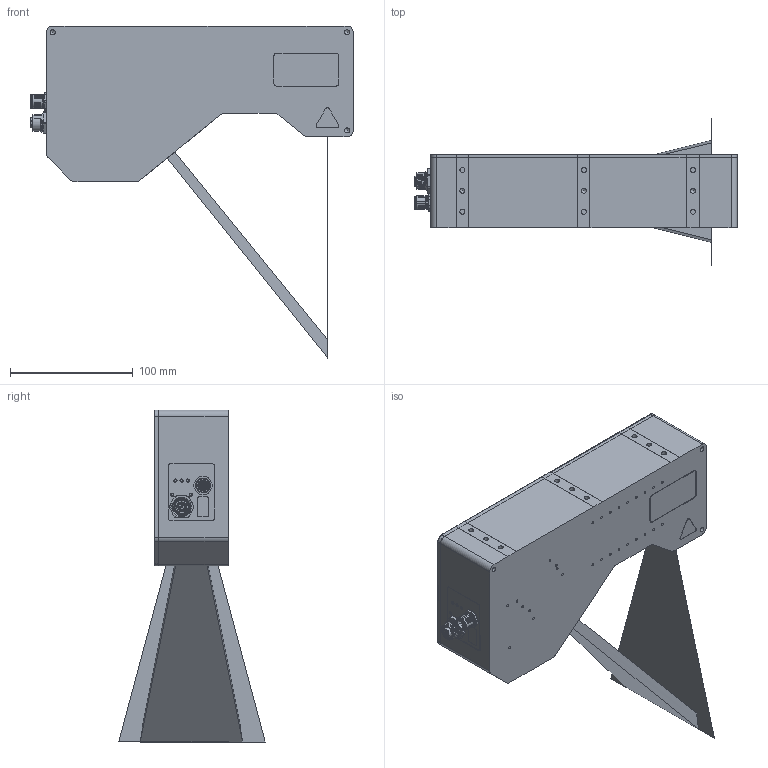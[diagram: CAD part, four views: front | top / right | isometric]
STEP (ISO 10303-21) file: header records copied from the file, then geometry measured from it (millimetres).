
FILE_DESCRIPTION(/* description */ (''),/* implementation_level */ '2;1');
FILE_NAME(/* name */ 'C6-S7-4090-CS-39-82-172-SX-1G-XXX-XX_Public.iam.stp',/* time_stamp */ '2025-06-17T09:13:32+02:00',/* author */ ('AT'),/* organization */ ('Automation Technology GmbH'),/* preprocessor_version */ 'ST-DEVELOPER v20',/* originating_system */ 'Autodesk Inventor 2024',/* authorisation */ '');
FILE_SCHEMA (('AUTOMOTIVE_DESIGN { 1 0 10303 214 3 1 1 }'));
Products named in the file (22): C6-S7-4090-CS-39-82-172-SX-1G-XXX-XX_Public; SACC-DSI-FS-8CON-L180_SCO SH_1553860-01; SACC-DSI-FS-8CON-L180_SCO SH_1553860_Stecker; SACC-DSI-FS-8CON-L180_SCO SH_1553860_Mutter; SACC-DSI-FS-8CON-L180_SCO SH_1553860_Kunststoffeinsatz; SACC-DSI-MS-17CON-M12 SCO SH_1437119-01; SACC-DSI-MS-17CON-M12 SCO SH_1437119_Stecker; SACC-DSI-MS-17CON-M12 SCO SH_1437119_Mutter; SACC-DSI-MS-17CON-M12 SCO SH_1437119_Pins; SACC-DSI-MS-17CON-M12 SCO SH_1437119_Kunststoffeinsatz; Glasscheibe2Zollx1; EO: 48-924; ISO 4762 - M2,5 x 6; 1292.6001; Screw GB/T 2672 M2,5 x 6; Screw GB/T 2672 M2,5 x 4; 202209000-100; 202209000-101; 202190016-007; 202190016-009; 202202010-010; C6-S7-4090-CS-39-82-172-SX-1G-XXX-XX_Public_Strahlengang
Assembly tree (43 placements, depth 3):
  C6-S7-4090-CS-39-82-172-SX-1G-XXX-XX_Public
    SACC-DSI-FS-8CON-L180_SCO SH_1553860-01
      SACC-DSI-FS-8CON-L180_SCO SH_1553860_Stecker
      SACC-DSI-FS-8CON-L180_SCO SH_1553860_Mutter
      SACC-DSI-FS-8CON-L180_SCO SH_1553860_Kunststoffeinsatz
    SACC-DSI-MS-17CON-M12 SCO SH_1437119-01
      SACC-DSI-MS-17CON-M12 SCO SH_1437119_Stecker
      SACC-DSI-MS-17CON-M12 SCO SH_1437119_Mutter
      SACC-DSI-MS-17CON-M12 SCO SH_1437119_Pins
      SACC-DSI-MS-17CON-M12 SCO SH_1437119_Kunststoffeinsatz
    Glasscheibe2Zollx1
    EO: 48-924
    Screw GB/T 2672 M2,5 x 6  x10
    ISO 4762 - M2,5 x 6  x2
    1292.6001  x6
    Screw GB/T 2672 M2,5 x 4  x8
    202209000-100
    202209000-101
    202190016-007
    202190016-009
    202202010-010
    C6-S7-4090-CS-39-82-172-SX-1G-XXX-XX_Public_Strahlengang
Bounding box: 262.8 x 119.34 x 270.6 mm (x, y, z)
Volume: 447052.8 mm3; surface area: 248123.1 mm2
Topology: 58 solids, 59 shells, 2541 faces, 6028 edges, 3742 vertices
Faces by surface type: cylinder 1129, plane 957, bspline 181, cone 127, torus 95, sphere 52
Full cylindrical faces by diameter (mm): 0.217 x1, 0.6 x25, 0.63 x34, 0.9 x8, 1 x10, 1.1 x17, 1.2 x17, 1.5 x6, 1.567 x16, 1.6 x5, 2 x16, 2.013 x58, 2.208 x18, 2.4 x18, 2.5 x20, 2.6 x15, 2.8 x8, 4 x3, 4.134 x9, 4.5 x2, 5 x18, 5.2 x10, 5.5 x8, 7.7 x1, 8.25 x2, 8.3 x1, 8.7 x1, 10.5 x1, 10.7 x3, 10.917 x2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
Entity records: 90260 total; most frequent: CARTESIAN_POINT 46120, DIRECTION 8802, ORIENTED_EDGE 8718, EDGE_CURVE 4361, AXIS2_PLACEMENT_3D 3285, VERTEX_POINT 2877, LINE 2232, VECTOR 2232
